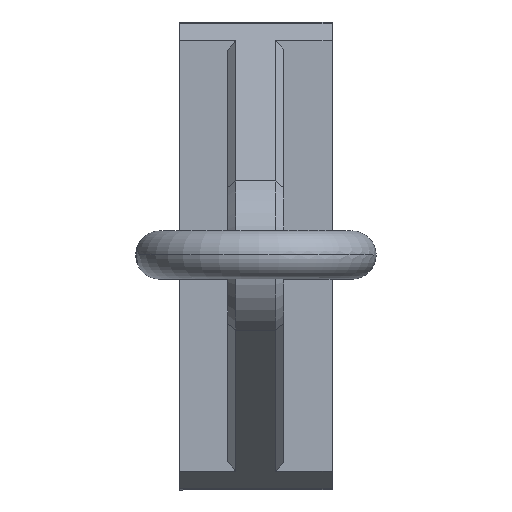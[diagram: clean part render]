
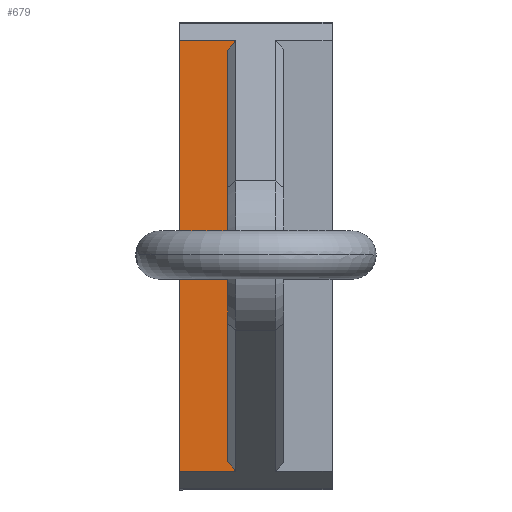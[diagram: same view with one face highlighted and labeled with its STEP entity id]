
A CAD part, top view. The second image highlights one B-rep face of the part: STEP entity #679.
In plain terms, the highlighted planar face has unit normal (0, 0, 1).
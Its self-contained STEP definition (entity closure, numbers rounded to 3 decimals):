
#31=DIRECTION('',(1.,0.,0.));
#32=VECTOR('',#31,2.);
#33=CARTESIAN_POINT('',(-3.5,19.132,5.));
#34=LINE('',#33,#32);
#35=DIRECTION('',(1.,0.,0.));
#36=VECTOR('',#35,7.);
#37=CARTESIAN_POINT('',(-9.5,-26.852,5.));
#38=LINE('',#37,#36);
#39=DIRECTION('',(0.,1.,0.));
#40=VECTOR('',#39,53.703);
#41=CARTESIAN_POINT('',(-9.5,-26.852,5.));
#42=LINE('',#41,#40);
#43=DIRECTION('',(1.,0.,0.));
#44=VECTOR('',#43,7.);
#45=CARTESIAN_POINT('',(-9.5,26.852,5.));
#46=LINE('',#45,#44);
#52=DIRECTION('',(0.,1.,0.));
#53=VECTOR('',#52,6.538);
#54=CARTESIAN_POINT('',(-3.5,19.132,5.));
#55=LINE('',#54,#53);
#56=DIRECTION('',(0.,1.,0.));
#57=VECTOR('',#56,6.538);
#58=CARTESIAN_POINT('',(-3.5,-25.67,5.));
#59=LINE('',#58,#57);
#334=DIRECTION('',(0.646,0.763,0.));
#335=VECTOR('',#334,1.548);
#336=CARTESIAN_POINT('',(-3.5,25.67,5.));
#337=LINE('',#336,#335);
#392=DIRECTION('',(0.646,-0.763,0.));
#393=VECTOR('',#392,1.548);
#394=CARTESIAN_POINT('',(-3.5,-25.67,5.));
#395=LINE('',#394,#393);
#420=DIRECTION('',(1.,0.,0.));
#421=VECTOR('',#420,2.);
#422=CARTESIAN_POINT('',(-3.5,-19.132,5.));
#423=LINE('',#422,#421);
#457=DIRECTION('',(0.,-1.,0.));
#458=VECTOR('',#457,38.263);
#459=CARTESIAN_POINT('',(-1.5,19.132,5.));
#460=LINE('',#459,#458);
#461=CARTESIAN_POINT('',(-9.5,-26.852,5.));
#462=CARTESIAN_POINT('',(-9.5,26.852,5.));
#463=VERTEX_POINT('',#461);
#464=VERTEX_POINT('',#462);
#518=CARTESIAN_POINT('',(-1.5,19.132,5.));
#520=VERTEX_POINT('',#518);
#521=CARTESIAN_POINT('',(-1.5,-19.132,5.));
#522=VERTEX_POINT('',#521);
#534=CARTESIAN_POINT('',(-3.5,19.132,5.));
#536=VERTEX_POINT('',#534);
#537=CARTESIAN_POINT('',(-3.5,-19.132,5.));
#539=VERTEX_POINT('',#537);
#565=CARTESIAN_POINT('',(-3.5,25.67,5.));
#567=VERTEX_POINT('',#565);
#569=CARTESIAN_POINT('',(-2.5,26.852,5.));
#571=VERTEX_POINT('',#569);
#577=CARTESIAN_POINT('',(-3.5,-25.67,5.));
#578=VERTEX_POINT('',#577);
#579=CARTESIAN_POINT('',(-2.5,-26.852,5.));
#580=VERTEX_POINT('',#579);
#654=CARTESIAN_POINT('',(-9.5,-30.,5.));
#655=DIRECTION('',(0.,0.,1.));
#656=DIRECTION('',(1.,0.,0.));
#657=AXIS2_PLACEMENT_3D('',#654,#655,#656);
#658=PLANE('',#657);
#660=ORIENTED_EDGE('',*,*,#659,.F.);
#662=ORIENTED_EDGE('',*,*,#661,.T.);
#664=ORIENTED_EDGE('',*,*,#663,.T.);
#666=ORIENTED_EDGE('',*,*,#665,.F.);
#668=ORIENTED_EDGE('',*,*,#667,.F.);
#670=ORIENTED_EDGE('',*,*,#669,.T.);
#671=ORIENTED_EDGE('',*,*,#639,.F.);
#672=ORIENTED_EDGE('',*,*,#610,.T.);
#674=ORIENTED_EDGE('',*,*,#673,.T.);
#676=ORIENTED_EDGE('',*,*,#675,.F.);
#677=EDGE_LOOP('',(#660,#662,#664,#666,#668,#670,#671,#672,#674,#676));
#678=FACE_OUTER_BOUND('',#677,.F.);
#679=ADVANCED_FACE('',(#678),#658,.T.);
#610=EDGE_CURVE('',#463,#464,#42,.T.);
#639=EDGE_CURVE('',#463,#580,#38,.T.);
#659=EDGE_CURVE('',#536,#567,#55,.T.);
#661=EDGE_CURVE('',#536,#520,#34,.T.);
#663=EDGE_CURVE('',#520,#522,#460,.T.);
#665=EDGE_CURVE('',#539,#522,#423,.T.);
#667=EDGE_CURVE('',#578,#539,#59,.T.);
#669=EDGE_CURVE('',#578,#580,#395,.T.);
#673=EDGE_CURVE('',#464,#571,#46,.T.);
#675=EDGE_CURVE('',#567,#571,#337,.T.);
